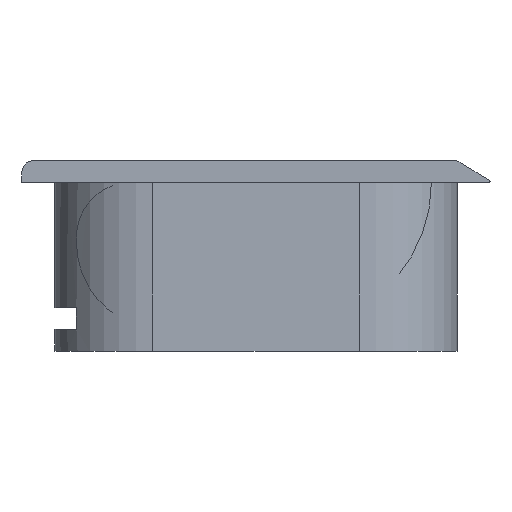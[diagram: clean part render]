
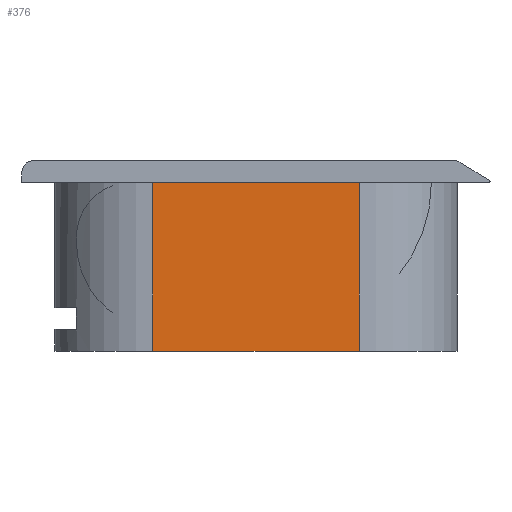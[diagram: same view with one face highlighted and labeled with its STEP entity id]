
A CAD part, left-side view. The second image highlights one B-rep face of the part: STEP entity #376.
In plain terms, the highlighted planar face has unit normal (-1, 0, 0).
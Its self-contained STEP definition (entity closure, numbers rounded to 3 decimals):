
#296 = VERTEX_POINT( '', #835 );
#300 = EDGE_CURVE( '', #532, #296, #839, .T. );
#376 = ADVANCED_FACE( '', ( #924 ), #925, .F. );
#386 = EDGE_CURVE( '', #794, #296, #936, .T. );
#504 = EDGE_CURVE( '', #702, #532, #1064, .T. );
#516 = EDGE_CURVE( '', #794, #702, #1077, .T. );
#532 = VERTEX_POINT( '', #1096 );
#702 = VERTEX_POINT( '', #1276 );
#794 = VERTEX_POINT( '', #1381 );
#835 = CARTESIAN_POINT( '', ( -18., 4., 15.5 ) );
#839 = LINE( '', #1420, #1421 );
#924 = FACE_OUTER_BOUND( '', #1535, .T. );
#925 = PLANE( '', #1536 );
#936 = LINE( '', #1551, #1552 );
#1064 = LINE( '', #1727, #1728 );
#1077 = LINE( '', #1746, #1747 );
#1096 = CARTESIAN_POINT( '', ( -18., 23., 15.5 ) );
#1276 = CARTESIAN_POINT( '', ( -18., 23., 0. ) );
#1381 = CARTESIAN_POINT( '', ( -18., 4., 0. ) );
#1420 = CARTESIAN_POINT( '', ( -18., -3.95, 15.5 ) );
#1421 = VECTOR( '', #2201, 1. );
#1535 = EDGE_LOOP( '', ( #2298, #2299, #2300, #2301 ) );
#1536 = AXIS2_PLACEMENT_3D( '', #2302, #2303, #2304 );
#1551 = CARTESIAN_POINT( '', ( -18., 4., 7.75 ) );
#1552 = VECTOR( '', #2317, 1. );
#1727 = CARTESIAN_POINT( '', ( -18., 23., 7.75 ) );
#1728 = VECTOR( '', #2458, 1. );
#1746 = CARTESIAN_POINT( '', ( -18., -5., 0. ) );
#1747 = VECTOR( '', #2469, 1. );
#2201 = DIRECTION( '', ( 0., -1., 0. ) );
#2298 = ORIENTED_EDGE( '', *, *, #504, .F. );
#2299 = ORIENTED_EDGE( '', *, *, #516, .F. );
#2300 = ORIENTED_EDGE( '', *, *, #386, .T. );
#2301 = ORIENTED_EDGE( '', *, *, #300, .F. );
#2302 = CARTESIAN_POINT( '', ( -18., 0., 0. ) );
#2303 = DIRECTION( '', ( 1., 0., 0. ) );
#2304 = DIRECTION( '', ( 0., 0., -1. ) );
#2317 = DIRECTION( '', ( 0., 0., 1. ) );
#2458 = DIRECTION( '', ( 0., 0., 1. ) );
#2469 = DIRECTION( '', ( 0., 1., 0. ) );
